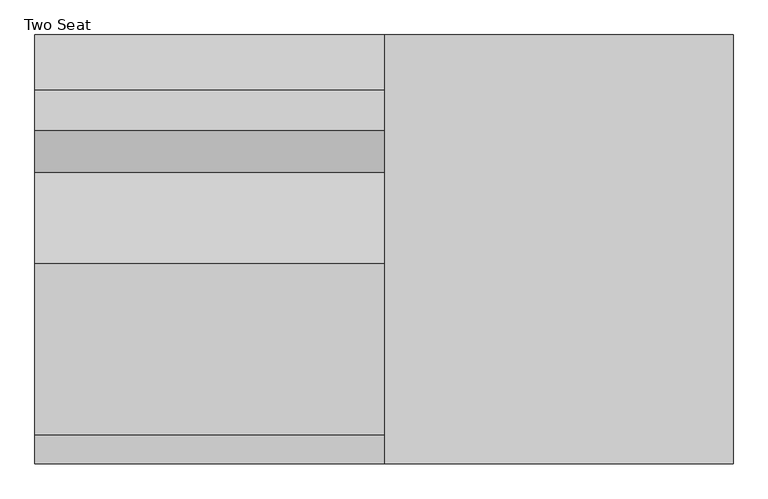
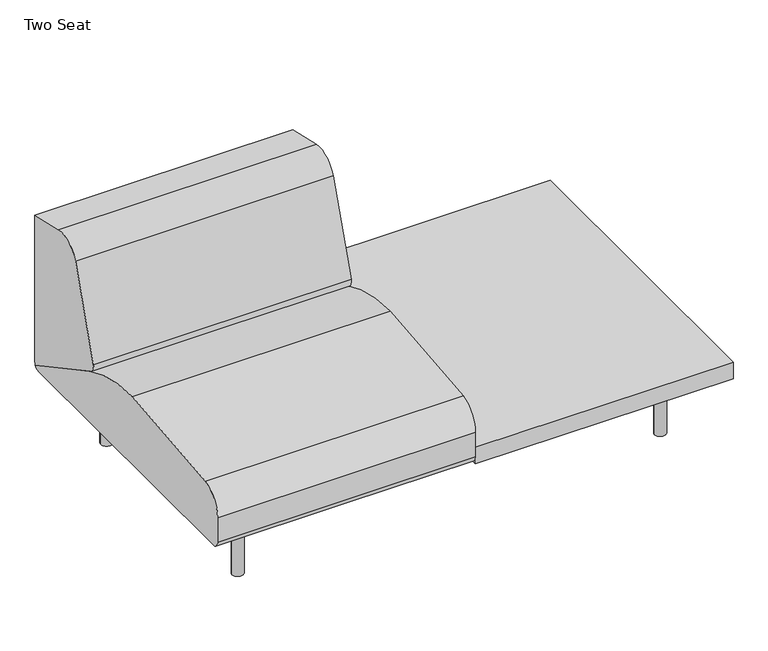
"""IFC4 building model written with IfcOpenShell, lengths in millimetres: furniture geometry, Coalesse_AM_Seating_LoungeChair_Sistema_LegBase_TwoSeat : Two Seat."""

from ifc_helpers import new_model, si_unit, point, frame, frame_2d, origin, origin_with_axes, place, context, project, spatial, polyline, circle_curve, trimmed, segment, composite_curve, outline, extrude, source, transform, mapped, element, save


def two_seat_23a78b14(model_context):
    return source(origin(), model_context, "Body", "SweptSolid", [
        extrude(outline(composite_curve([segment(trimmed(circle_curve(frame_2d((989.1765227, 335.9943389)), 6.096), [point((995.2725227, 335.9943389))], [point((983.0805227, 335.9943389))], False, "CARTESIAN"), True, "CONTINUOUS"), segment(trimmed(circle_curve(frame_2d((989.1765227, 335.9943389)), 6.096), [point((983.0805227, 335.9943389))], [point((995.2725227, 335.9943389))], False, "CARTESIAN"), True, "CONTINUOUS")], self_intersect=False)), origin_with_axes(), (0.0, 0.0, 1.0), 4.3662291),
        extrude(outline(composite_curve([segment(trimmed(circle_curve(frame_2d((989.1765227, -327.2630889)), 6.096), [point((995.2725227, -327.2630889))], [point((983.0805227, -327.2630889))], False, "CARTESIAN"), True, "CONTINUOUS"), segment(trimmed(circle_curve(frame_2d((989.1765227, -327.2630889)), 6.096), [point((983.0805227, -327.2630889))], [point((995.2725227, -327.2630889))], False, "CARTESIAN"), True, "CONTINUOUS")], self_intersect=False)), origin_with_axes(), (0.0, 0.0, 1.0), 4.3662291),
        extrude(outline(composite_curve([segment(polyline([(157.0399209, 1001.756375), (201.7356243, 1001.756375)]), True, "CONTINUOUS"), segment(trimmed(circle_curve(frame_2d((201.7356243, 998.708375)), 3.048), [point((201.7356243, 1001.756375))], [point((204.7836243, 998.708375))], False, "CARTESIAN"), True, "CONTINUOUS"), segment(polyline([(204.7836243, 998.708375), (204.7836243, 979.366199)]), True, "CONTINUOUS"), segment(trimmed(circle_curve(frame_2d((201.7356243, 979.366199)), 3.048), [point((204.7836243, 979.366199))], [point((201.7356243, 976.318199))], False, "CARTESIAN"), True, "CONTINUOUS"), segment(polyline([(201.7356243, 976.318199), (157.1249936, 976.318199)]), True, "CONTINUOUS"), segment(trimmed(circle_curve(frame_2d((157.1249936, 979.4512718)), 3.1330728), [point((157.1249936, 976.318199))], [point((153.9919209, 979.4512718))], False, "CARTESIAN"), True, "CONTINUOUS"), segment(polyline([(153.9919209, 979.4512718), (153.9919209, 998.708375)]), True, "CONTINUOUS"), segment(trimmed(circle_curve(frame_2d((157.0399209, 998.708375)), 3.048), [point((153.9919209, 998.708375))], [point((157.0399209, 1001.756375))], False, "CARTESIAN"), True, "CONTINUOUS")], self_intersect=False)), frame((0.0, 222.3519802, 0.0), z_axis=(0.0, 1.0, 0.0), x_axis=(0.0, 0.0, 1.0)), (0.0, 0.0, 1.0), 92.6273161),
        extrude(outline(composite_curve([segment(polyline([(157.0399209, 1001.756375), (201.7356243, 1001.756375)]), True, "CONTINUOUS"), segment(trimmed(circle_curve(frame_2d((201.7356243, 998.708375)), 3.048), [point((201.7356243, 1001.756375))], [point((204.7836243, 998.708375))], False, "CARTESIAN"), True, "CONTINUOUS"), segment(polyline([(204.7836243, 998.708375), (204.7836243, 979.366199)]), True, "CONTINUOUS"), segment(trimmed(circle_curve(frame_2d((201.7356243, 979.366199)), 3.048), [point((204.7836243, 979.366199))], [point((201.7356243, 976.318199))], False, "CARTESIAN"), True, "CONTINUOUS"), segment(polyline([(201.7356243, 976.318199), (157.1249936, 976.318199)]), True, "CONTINUOUS"), segment(trimmed(circle_curve(frame_2d((157.1249936, 979.4512718)), 3.1330728), [point((157.1249936, 976.318199))], [point((153.9919209, 979.4512718))], False, "CARTESIAN"), True, "CONTINUOUS"), segment(polyline([(153.9919209, 979.4512718), (153.9919209, 998.708375)]), True, "CONTINUOUS"), segment(trimmed(circle_curve(frame_2d((157.0399209, 998.708375)), 3.048), [point((153.9919209, 998.708375))], [point((157.0399209, 1001.756375))], False, "CARTESIAN"), True, "CONTINUOUS")], self_intersect=False)), frame((0.0, -314.9792963, 0.0), z_axis=(0.0, 1.0, 0.0), x_axis=(0.0, 0.0, 1.0)), (0.0, 0.0, 1.0), 92.6273161),
        extrude(outline(composite_curve([segment(trimmed(circle_curve(frame_2d((176.3356606, 966.5259944)), 3.048), [point((179.3836606, 966.5259944))], [point((176.3356606, 963.4779944))], False, "CARTESIAN"), True, "CONTINUOUS"), segment(polyline([(176.3356606, 963.4779944), (157.0399209, 963.4779944)]), True, "CONTINUOUS"), segment(trimmed(circle_curve(frame_2d((157.0399209, 966.5259944)), 3.048), [point((157.0399209, 963.4779944))], [point((153.9919209, 966.5259944))], False, "CARTESIAN"), True, "CONTINUOUS"), segment(polyline([(153.9919209, 966.5259944), (153.9919209, 1011.2135501)]), True, "CONTINUOUS"), segment(trimmed(circle_curve(frame_2d((157.056462, 1011.2135501)), 3.0645412), [point((153.9919209, 1011.2135501))], [point((157.056462, 1014.2780913))], False, "CARTESIAN"), True, "CONTINUOUS"), segment(polyline([(157.056462, 1014.2780913), (176.3356606, 1014.2780913)]), True, "CONTINUOUS"), segment(trimmed(circle_curve(frame_2d((176.3356606, 1011.2300913)), 3.048), [point((176.3356606, 1014.2780913))], [point((179.3836606, 1011.2300913))], False, "CARTESIAN"), True, "CONTINUOUS"), segment(polyline([(179.3836606, 1011.2300913), (179.3836606, 966.5259944)]), True, "CONTINUOUS")], self_intersect=False)), frame((0.0, -222.3519802, 0.0), z_axis=(0.0, 1.0, 0.0), x_axis=(0.0, 0.0, 1.0)), (0.0, 0.0, 1.0), 444.7039604),
        extrude(outline(composite_curve([segment(trimmed(circle_curve(frame_2d((989.1765227, 332.3095741)), 16.51), [point((1005.6865227, 332.3095741))], [point((972.6665227, 332.3095741))], False, "CARTESIAN"), True, "CONTINUOUS"), segment(trimmed(circle_curve(frame_2d((989.1765227, 332.3095741)), 16.51), [point((972.6665227, 332.3095741))], [point((1005.6865227, 332.3095741))], False, "CARTESIAN"), True, "CONTINUOUS")], self_intersect=False)), frame((0.0, 0.0, 4.3662291), z_axis=(0.0, 0.0, 1.0), x_axis=(1.0, 0.0, 0.0)), (0.0, 0.0, 1.0), 200.1037709),
        extrude(outline(composite_curve([segment(trimmed(circle_curve(frame_2d((988.7796477, -327.5470741)), 16.51), [point((1005.2896477, -327.5470741))], [point((972.2696477, -327.5470741))], False, "CARTESIAN"), True, "CONTINUOUS"), segment(trimmed(circle_curve(frame_2d((988.7796477, -327.5470741)), 16.51), [point((972.2696477, -327.5470741))], [point((1005.2896477, -327.5470741))], False, "CARTESIAN"), True, "CONTINUOUS")], self_intersect=False)), frame((0.0, 0.0, 4.3662291), z_axis=(0.0, 0.0, 1.0), x_axis=(1.0, 0.0, 0.0)), (0.0, 0.0, 1.0), 200.1037709),
        extrude(outline(composite_curve([segment(polyline([(459.4795619, 673.6041325), (459.4795619, 228.1929806)]), True, "CONTINUOUS"), segment(trimmed(circle_curve(frame_2d((191.495971, 228.1929806)), 267.983591), [point((459.4795619, 228.1929806))], [point((458.9860775, 211.937276))], False, "CARTESIAN"), True, "CONTINUOUS"), segment(polyline([(458.9860775, 211.937276), (177.4990556, 364.1028799)]), True, "CONTINUOUS"), segment(trimmed(circle_curve(frame_2d((189.5778307, 386.4470781)), 25.4), [point((177.4990556, 364.1028799))], [point((164.9600055, 392.7018911))], False, "CARTESIAN"), True, "CONTINUOUS"), segment(trimmed(circle_curve(frame_2d((1918.112812, -52.7331923)), 1808.8552115), [point((164.9600055, 392.7018911))], [point((254.1018253, 656.5090883))], False, "CARTESIAN"), True, "CONTINUOUS"), segment(trimmed(circle_curve(frame_2d((324.2001043, 626.6314831)), 76.2), [point((254.1018253, 656.5090883))], [point((341.3413746, 700.8784821))], False, "CARTESIAN"), True, "CONTINUOUS"), segment(polyline([(341.3413746, 700.8784821), (459.4795619, 673.6041325)]), True, "CONTINUOUS")], self_intersect=False)), frame((-374.8034773, 0.0, 0.0), z_axis=(1.0, 0.0, 0.0), x_axis=(0.0, 1.0, 0.0)), (0.0, 0.0, 1.0), 749.3),
        extrude(outline(composite_curve([segment(trimmed(circle_curve(frame_2d((-438.9184381, 226.822)), 22.352), [point((-438.9184381, 204.47))], [point((-461.2704381, 226.822))], False, "CARTESIAN"), True, "CONTINUOUS"), segment(polyline([(-461.2704381, 226.822), (-461.2704381, 301.4421993)]), True, "CONTINUOUS"), segment(trimmed(circle_curve(frame_2d((-385.0704381, 301.4421993)), 76.2), [point((-461.2704381, 301.4421993))], [point((-398.9277015, 376.3716077))], False, "CARTESIAN"), True, "CONTINUOUS"), segment(trimmed(circle_curve(frame_2d((2.2103559, -1792.6740646)), 2205.8265729), [point((-398.9277015, 376.3716077))], [point((-31.1968175, 412.8995185))], False, "CARTESIAN"), True, "CONTINUOUS"), segment(trimmed(circle_curve(frame_2d((-24.5128424, -28.3829182)), 441.333054), [point((-31.1968175, 412.8995185))], [point((184.5757008, 360.2774035))], False, "CARTESIAN"), True, "CONTINUOUS"), segment(polyline([(184.5757008, 360.2774035), (458.9860775, 211.937276)]), True, "CONTINUOUS"), segment(trimmed(circle_curve(frame_2d((442.3266309, 226.7871991)), 22.3171991), [point((458.9860775, 211.937276))], [point((442.3266309, 204.47))], False, "CARTESIAN"), True, "CONTINUOUS"), segment(polyline([(442.3266309, 204.47), (-438.9184381, 204.47)]), True, "CONTINUOUS")], self_intersect=False)), frame((-374.8034773, 0.0, 0.0), z_axis=(1.0, 0.0, 0.0), x_axis=(0.0, 1.0, 0.0)), (0.0, 0.0, 1.0), 749.3),
        extrude(outline(polyline([(1123.7965227, 459.4795619), (1123.7965227, -461.2704381), (374.4965227, -461.2704381), (374.4965227, 459.4795619), (1123.7965227, 459.4795619)])), frame((0.0, 0.0, 204.47), z_axis=(0.0, 0.0, 1.0), x_axis=(1.0, 0.0, 0.0)), (0.0, 0.0, 1.0), 51.0294654),
        extrude(outline(composite_curve([segment(trimmed(circle_curve(frame_2d((-240.1834773, 335.9943389)), 6.096), [point((-246.2794773, 335.9943389))], [point((-234.0874773, 335.9943389))], False, "CARTESIAN"), True, "CONTINUOUS"), segment(trimmed(circle_curve(frame_2d((-240.1834773, 335.9943389)), 6.096), [point((-234.0874773, 335.9943389))], [point((-246.2794773, 335.9943389))], False, "CARTESIAN"), True, "CONTINUOUS")], self_intersect=False)), origin_with_axes(), (0.0, 0.0, 1.0), 4.3662291),
        extrude(outline(composite_curve([segment(trimmed(circle_curve(frame_2d((-240.1834773, -327.2630889)), 6.096), [point((-246.2794773, -327.2630889))], [point((-234.0874773, -327.2630889))], False, "CARTESIAN"), True, "CONTINUOUS"), segment(trimmed(circle_curve(frame_2d((-240.1834773, -327.2630889)), 6.096), [point((-234.0874773, -327.2630889))], [point((-246.2794773, -327.2630889))], False, "CARTESIAN"), True, "CONTINUOUS")], self_intersect=False)), origin_with_axes(), (0.0, 0.0, 1.0), 4.3662291),
        extrude(outline(composite_curve([segment(trimmed(circle_curve(frame_2d((157.0399209, -249.7153296)), 3.048), [point((157.0399209, -252.7633296))], [point((153.9919209, -249.7153296))], False, "CARTESIAN"), True, "CONTINUOUS"), segment(polyline([(153.9919209, -249.7153296), (153.9919209, -230.4582264)]), True, "CONTINUOUS"), segment(trimmed(circle_curve(frame_2d((157.1249936, -230.4582264)), 3.1330728), [point((153.9919209, -230.4582264))], [point((157.1249936, -227.3251537))], False, "CARTESIAN"), True, "CONTINUOUS"), segment(polyline([(157.1249936, -227.3251537), (201.7356243, -227.3251537)]), True, "CONTINUOUS"), segment(trimmed(circle_curve(frame_2d((201.7356243, -230.3731537)), 3.048), [point((201.7356243, -227.3251537))], [point((204.7836243, -230.3731537))], False, "CARTESIAN"), True, "CONTINUOUS"), segment(polyline([(204.7836243, -230.3731537), (204.7836243, -249.7153296)]), True, "CONTINUOUS"), segment(trimmed(circle_curve(frame_2d((201.7356243, -249.7153296)), 3.048), [point((204.7836243, -249.7153296))], [point((201.7356243, -252.7633296))], False, "CARTESIAN"), True, "CONTINUOUS"), segment(polyline([(201.7356243, -252.7633296), (157.0399209, -252.7633296)]), True, "CONTINUOUS")], self_intersect=False)), frame((0.0, 222.3519802, 0.0), z_axis=(0.0, 1.0, 0.0), x_axis=(0.0, 0.0, 1.0)), (0.0, 0.0, 1.0), 92.6273161),
        extrude(outline(composite_curve([segment(trimmed(circle_curve(frame_2d((157.0399209, -249.7153296)), 3.048), [point((157.0399209, -252.7633296))], [point((153.9919209, -249.7153296))], False, "CARTESIAN"), True, "CONTINUOUS"), segment(polyline([(153.9919209, -249.7153296), (153.9919209, -230.4582264)]), True, "CONTINUOUS"), segment(trimmed(circle_curve(frame_2d((157.1249936, -230.4582264)), 3.1330728), [point((153.9919209, -230.4582264))], [point((157.1249936, -227.3251537))], False, "CARTESIAN"), True, "CONTINUOUS"), segment(polyline([(157.1249936, -227.3251537), (201.7356243, -227.3251537)]), True, "CONTINUOUS"), segment(trimmed(circle_curve(frame_2d((201.7356243, -230.3731537)), 3.048), [point((201.7356243, -227.3251537))], [point((204.7836243, -230.3731537))], False, "CARTESIAN"), True, "CONTINUOUS"), segment(polyline([(204.7836243, -230.3731537), (204.7836243, -249.7153296)]), True, "CONTINUOUS"), segment(trimmed(circle_curve(frame_2d((201.7356243, -249.7153296)), 3.048), [point((204.7836243, -249.7153296))], [point((201.7356243, -252.7633296))], False, "CARTESIAN"), True, "CONTINUOUS"), segment(polyline([(201.7356243, -252.7633296), (157.0399209, -252.7633296)]), True, "CONTINUOUS")], self_intersect=False)), frame((0.0, -314.9792963, 0.0), z_axis=(0.0, 1.0, 0.0), x_axis=(0.0, 0.0, 1.0)), (0.0, 0.0, 1.0), 92.6273161),
        extrude(outline(composite_curve([segment(polyline([(179.3836606, -217.532949), (179.3836606, -262.2370459)]), True, "CONTINUOUS"), segment(trimmed(circle_curve(frame_2d((176.3356606, -262.2370459)), 3.048), [point((179.3836606, -262.2370459))], [point((176.3356606, -265.2850459))], False, "CARTESIAN"), True, "CONTINUOUS"), segment(polyline([(176.3356606, -265.2850459), (157.056462, -265.2850459)]), True, "CONTINUOUS"), segment(trimmed(circle_curve(frame_2d((157.056462, -262.2205047)), 3.0645412), [point((157.056462, -265.2850459))], [point((153.9919209, -262.2205047))], False, "CARTESIAN"), True, "CONTINUOUS"), segment(polyline([(153.9919209, -262.2205047), (153.9919209, -217.532949)]), True, "CONTINUOUS"), segment(trimmed(circle_curve(frame_2d((157.0399209, -217.532949)), 3.048), [point((153.9919209, -217.532949))], [point((157.0399209, -214.484949))], False, "CARTESIAN"), True, "CONTINUOUS"), segment(polyline([(157.0399209, -214.484949), (176.3356606, -214.484949)]), True, "CONTINUOUS"), segment(trimmed(circle_curve(frame_2d((176.3356606, -217.532949)), 3.048), [point((176.3356606, -214.484949))], [point((179.3836606, -217.532949))], False, "CARTESIAN"), True, "CONTINUOUS")], self_intersect=False)), frame((0.0, -222.3519802, 0.0), z_axis=(0.0, 1.0, 0.0), x_axis=(0.0, 0.0, 1.0)), (0.0, 0.0, 1.0), 444.7039604),
        extrude(outline(composite_curve([segment(trimmed(circle_curve(frame_2d((-240.1834773, 332.3095741)), 16.51), [point((-256.6934773, 332.3095741))], [point((-223.6734773, 332.3095741))], False, "CARTESIAN"), True, "CONTINUOUS"), segment(trimmed(circle_curve(frame_2d((-240.1834773, 332.3095741)), 16.51), [point((-223.6734773, 332.3095741))], [point((-256.6934773, 332.3095741))], False, "CARTESIAN"), True, "CONTINUOUS")], self_intersect=False)), frame((0.0, 0.0, 4.3662291), z_axis=(0.0, 0.0, 1.0), x_axis=(1.0, 0.0, 0.0)), (0.0, 0.0, 1.0), 200.1037709),
        extrude(outline(composite_curve([segment(trimmed(circle_curve(frame_2d((-239.7866023, -327.5470741)), 16.51), [point((-256.2966023, -327.5470741))], [point((-223.2766023, -327.5470741))], False, "CARTESIAN"), True, "CONTINUOUS"), segment(trimmed(circle_curve(frame_2d((-239.7866023, -327.5470741)), 16.51), [point((-223.2766023, -327.5470741))], [point((-256.2966023, -327.5470741))], False, "CARTESIAN"), True, "CONTINUOUS")], self_intersect=False)), frame((0.0, 0.0, 4.3662291), z_axis=(0.0, 0.0, 1.0), x_axis=(1.0, 0.0, 0.0)), (0.0, 0.0, 1.0), 200.1037709),
    ])


if __name__ == "__main__":
    model = new_model("IFC4")
    model_context = context("Model", 3, world=origin())
    ifc_project = project(units=[si_unit("LENGTHUNIT", "METRE", prefix="MILLI")], contexts=[model_context])
    site = spatial("IfcSite", under=ifc_project)
    building = spatial("IfcBuilding", under=site)
    placement = place(None, origin())
    two_seat_shape = two_seat_23a78b14(model_context)
    element("IfcFurniture", 1, ObjectType="Coalesse_AM_Seating_LoungeChair_Sistema_LegBase_TwoSeat : Two Seat", at=placement, inside=building, context=model_context, shape_type="MappedRepresentation", body=[
        mapped(two_seat_shape, transform((0.0, 0.0, 0.0), x_axis=(1.0, 0.0, 0.0), y_axis=(0.0, 1.0, 0.0), z_axis=(0.0, 0.0, 1.0))),
    ])
    save(model, "model.ifc")
